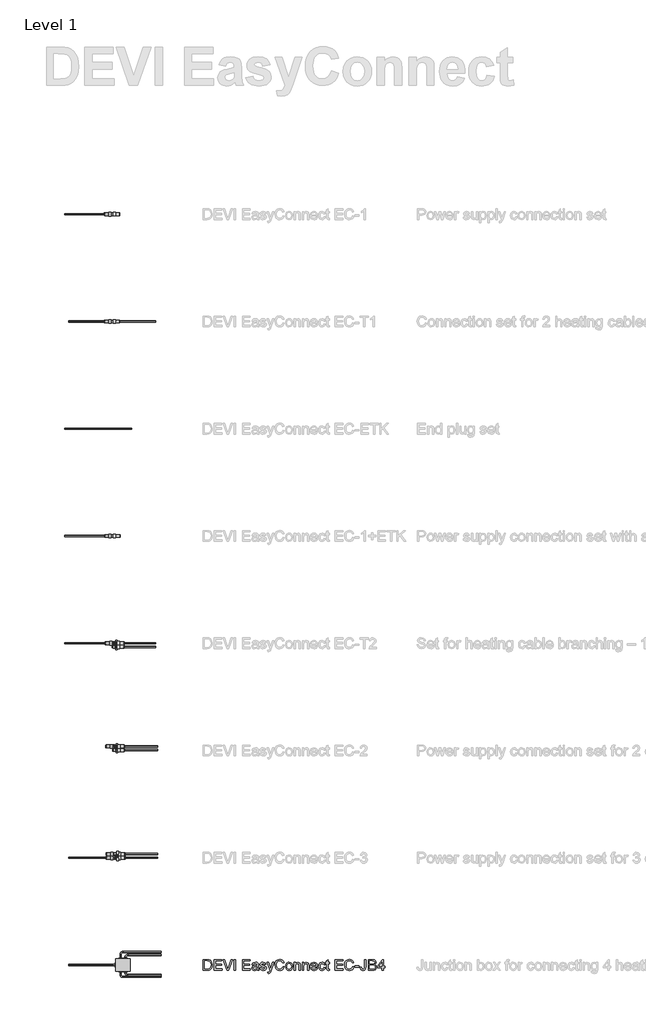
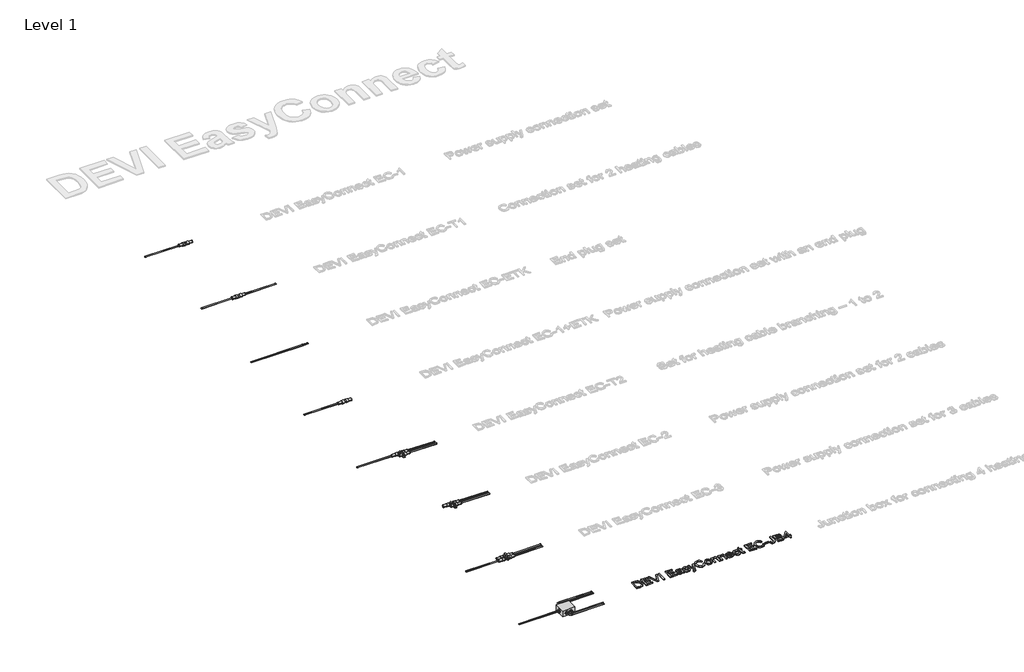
# One storey, part 1 of 11: 20 cable carrier segments, 12 cable carrier fittings, 1 proxy.
"""IFC4 building model written with IfcOpenShell, lengths in millimetres."""

from ifc_helpers import new_model, si_unit, point, frame, frame_2d, origin, origin_with_axes, place, context, project, spatial, polyline, circle_curve, trimmed, segment, composite_curve, outline, extrude, transform, mapped, element, save
from components import cable_carrier_fitting_3c55ed5f, cable_carrier_fitting_7790ee7d, cable_carrier_fitting_9c28b088, cable_carrier_fitting_f990690f, cable_carrier_fitting_56bb56f9, standard_92e4cb31

model = new_model("IFC4")

# Units and contexts
model_context = context("Model", 3, world=origin())
ifc_project = project(units=[si_unit("LENGTHUNIT", "METRE", prefix="MILLI")], contexts=[model_context])

# Site, building, storey
site = spatial("IfcSite", under=ifc_project)
building = spatial("IfcBuilding", under=site)
storey = spatial("IfcBuildingStorey", under=building, Name="Level 1", Elevation=0.0)

# Proxy
placement = place(None, origin())
element("IfcBuildingElementProxy", 1, Name="100mm Arial", ObjectType="100mm Arial", at=placement, inside=storey, context=model_context, shape_type="SweptSolid", body=[
    extrude(outline(polyline([(2544.9544754, -483.2658504), (2544.9544754, -382.8095402), (2579.6089593, -382.8095402), (2597.5370752, -384.2565428), (2612.3014059, -391.4425044), (2624.1962571, -408.6103308), (2628.1448572, -432.4981351), (2625.4715814, -452.768433), (2618.6044508, -467.3978737), (2609.4319264, -476.5090844), (2597.4267106, -481.5490677), (2581.276691, -483.2658504), (2544.9544754, -483.2658504)]), holes=[polyline([(2557.5115141, -470.7088116), (2579.7315866, -470.7088116), (2595.893869, -468.8939271), (2605.2135462, -463.7681046), (2612.8532289, -451.296905), (2615.5878184, -432.3019313), (2614.2481148, -418.6167211), (2610.229004, -408.512229), (2597.1937187, -397.3776672), (2579.3882301, -395.366579), (2557.5115141, -395.366579), (2557.5115141, -470.7088116)])]), origin_with_axes(), (0.0, 0.0, 1.0), 10.0),
    extrude(outline(polyline([(2645.4107855, -483.2658504), (2645.4107855, -382.8095402), (2717.6137584, -382.8095402), (2717.6137584, -395.366579), (2657.9678243, -395.366579), (2657.9678243, -425.1895461), (2714.4744987, -425.1895461), (2714.4744987, -437.7465849), (2657.9678243, -437.7465849), (2657.9678243, -470.7088116), (2719.1833883, -470.7088116), (2719.1833883, -483.2658504), (2645.4107855, -483.2658504)])), origin_with_axes(), (0.0, 0.0, 1.0), 10.0),
    extrude(outline(polyline([(2767.6947607, -483.2658504), (2727.7182506, -382.8095402), (2741.1582061, -382.8095402), (2767.9154899, -455.1841914), (2773.335618, -471.4936265), (2778.6821696, -455.1841914), (2805.5130298, -382.8095402), (2818.9529854, -382.8095402), (2780.6687324, -483.2658504), (2767.6947607, -483.2658504)])), origin_with_axes(), (0.0, 0.0, 1.0), 10.0),
    extrude(outline(polyline([(2832.1967372, -483.2658504), (2832.1967372, -382.8095402), (2844.753776, -382.8095402), (2844.753776, -483.2658504), (2832.1967372, -483.2658504)])), origin_with_axes(), (0.0, 0.0, 1.0), 10.0),
    extrude(outline(polyline([(2909.1085996, -483.2658504), (2909.1085996, -382.8095402), (2981.3115726, -382.8095402), (2981.3115726, -395.366579), (2921.6656384, -395.366579), (2921.6656384, -425.1895461), (2978.1723129, -425.1895461), (2978.1723129, -437.7465849), (2921.6656384, -437.7465849), (2921.6656384, -470.7088116), (2982.8812024, -470.7088116), (2982.8812024, -483.2658504), (2909.1085996, -483.2658504)])), origin_with_axes(), (0.0, 0.0, 1.0), 10.0),
    extrude(outline(polyline([(3047.2360261, -473.8480713), (3035.0591321, -482.3584081), (3021.6069138, -484.8354802), (3011.1130799, -483.3455582), (3003.3722295, -478.8757919), (2998.5989607, -472.0883691), (2997.007871, -463.6454773), (2999.4113667, -453.7126634), (3005.7266743, -446.5021763), (3014.519054, -442.381898), (3025.3838356, -440.4934371), (3047.1624497, -436.176955), (3047.2360261, -433.3810518), (3043.7779353, -424.1104256), (3029.8965214, -420.4806565), (3017.1923298, -422.896415), (3011.1345396, -431.4680655), (2998.5775009, -429.8984356), (3004.0098917, -417.6357025), (3014.9482497, -410.4497408), (3031.5152022, -407.9236178), (3046.733254, -410.1554352), (3055.32943, -415.7595043), (3059.1799282, -424.2821038), (3059.7930649, -435.2695128), (3059.7930649, -450.8922348), (3060.430727, -472.7076371), (3062.9323246, -483.2658504), (3050.3752858, -483.2658504), (3047.2360261, -473.8480713)]), holes=[polyline([(3047.2360261, -448.7339938), (3026.9779909, -452.584492), (3016.174523, -454.6201057), (3011.2816924, -457.9310437), (3009.5649098, -462.7625605), (3013.3050434, -469.5561147), (3024.2801896, -472.2784415), (3036.9843812, -469.2740718), (3045.1758869, -462.0022711), (3047.1624497, -452.2901864), (3047.2360261, -448.7339938)])]), origin_with_axes(), (0.0, 0.0, 1.0), 10.0),
    extrude(outline(polyline([(3072.3501036, -461.2910325), (3084.9071424, -459.7214027), (3090.7196779, -469.0410799), (3104.0370062, -472.2784415), (3116.8392996, -469.31086), (3121.0086289, -462.3456276), (3116.8147741, -456.7047703), (3103.8898534, -453.1240523), (3084.9807188, -446.9804229), (3076.7278994, -439.806724), (3073.9197335, -429.6777064), (3076.1760764, -420.321241), (3082.3319684, -413.1720676), (3090.3150077, -409.4564594), (3101.1184757, -407.9236178), (3116.3978412, -410.3884271), (3126.1099259, -417.059354), (3130.4264079, -428.3288058), (3117.8693692, -429.8984356), (3113.1482169, -422.9699914), (3102.0994943, -420.4806565), (3090.0820158, -422.8596268), (3086.4767723, -428.4023822), (3087.9728257, -432.0566767), (3092.6571898, -434.8280544), (3103.4729204, -437.5013302), (3121.9038084, -443.4119676), (3130.4631961, -450.1074199), (3133.5656676, -461.0212524), (3129.9236359, -473.0387309), (3119.4144736, -481.7575342), (3103.8653279, -484.8354802), (3091.2040559, -483.3516895), (3081.9640864, -478.9003174), (3075.7959317, -471.5304147), (3072.3501036, -461.2910325)])), origin_with_axes(), (0.0, 0.0, 1.0), 10.0),
    extrude(outline(polyline([(3147.6923363, -511.5191876), (3146.1227064, -499.4281327), (3152.4993277, -500.5317787), (3158.459016, -499.1460898), (3162.1133105, -495.2833289), (3165.5468758, -486.0372281), (3166.5278944, -482.9960703), (3139.844187, -409.4932476), (3153.0879388, -409.4932476), (3167.2391329, -450.4507764), (3172.1687517, -466.8337879), (3177.0983704, -452.3637628), (3191.6419719, -409.4932476), (3204.7876219, -409.4932476), (3179.1094586, -485.031684), (3172.4385318, -501.4146955), (3165.1544683, -510.2683888), (3155.3688072, -513.0888175), (3147.6923363, -511.5191876)])), origin_with_axes(), (0.0, 0.0, 1.0), 10.0),
    extrude(outline(polyline([(3287.3893926, -447.5567714), (3299.9464313, -450.7941329), (3294.1522899, -465.4266393), (3285.0594733, -476.116677), (3273.1155711, -482.6557794), (3258.7681733, -484.8354802), (3244.203112, -483.1861426), (3232.6362889, -478.2381298), (3223.7703329, -470.16312), (3217.3078725, -459.1327915), (3212.0471599, -432.2774059), (3213.5340163, -417.6295711), (3217.9945855, -404.9805618), (3225.1958756, -394.7319826), (3234.9048946, -387.2854378), (3246.419601, -382.7512923), (3259.0379535, -381.2399104), (3272.8059371, -383.1958163), (3284.1888192, -389.0635342), (3292.8309804, -398.4813132), (3298.3768015, -411.0874029), (3285.8197627, -414.0795098), (3275.5190668, -398.6407288), (3258.5474441, -393.7969492), (3238.9025456, -399.1680263), (3227.8047721, -413.5890005), (3224.6041987, -432.2528804), (3228.3933833, -453.8843417), (3240.1901326, -467.704442), (3257.5173745, -472.2784415), (3267.9989457, -470.7210744), (3276.7330774, -466.048973), (3283.3273622, -458.3111884), (3287.3893926, -447.5567714)])), origin_with_axes(), (0.0, 0.0, 1.0), 10.0),
    extrude(outline(polyline([(3312.5034701, -446.379549), (3315.2196655, -428.5924545), (3323.3682517, -416.0905981), (3333.4359556, -409.9653629), (3345.4902223, -407.9236178), (3358.6818575, -410.4098869), (3369.218611, -417.8686944), (3376.1255955, -429.7114289), (3378.4279236, -445.3494794), (3374.3566962, -467.6921793), (3362.4986332, -480.3350572), (3345.4902223, -484.8354802), (3332.1391716, -482.3584081), (3321.6146808, -474.9271918), (3314.7812728, -462.8361369), (3312.5034701, -446.379549)]), holes=[polyline([(3325.0605089, -446.3550235), (3326.5136427, -457.7195115), (3330.8730444, -465.8159811), (3337.4336066, -470.6628264), (3345.4902223, -472.2784415), (3353.5100498, -470.6536293), (3360.0583493, -465.7791929), (3364.417751, -457.5754244), (3365.8708849, -445.9626161), (3364.4085539, -434.9292219), (3360.0215611, -426.9431169), (3353.4640646, -422.0962716), (3345.4902223, -420.4806565), (3337.4336066, -422.0901403), (3330.8730444, -426.9185915), (3326.5136427, -434.9966669), (3325.0605089, -446.3550235)])]), origin_with_axes(), (0.0, 0.0, 1.0), 10.0),
    extrude(outline(polyline([(3392.5545922, -483.2658504), (3392.5545922, -409.4932476), (3405.111631, -409.4932476), (3405.111631, -419.7939435), (3414.7133511, -410.8911992), (3427.8222128, -407.9236178), (3439.6802758, -410.3148507), (3447.7736797, -416.5933701), (3451.5383388, -425.8272082), (3452.2005264, -437.9673141), (3452.2005264, -483.2658504), (3439.6434876, -483.2658504), (3439.6434876, -439.6595712), (3438.1964851, -428.549535), (3433.0829254, -422.6756858), (3424.462224, -420.4806565), (3410.8383274, -425.4102753), (3406.5433051, -432.5533174), (3405.111631, -444.1232061), (3405.111631, -483.2658504), (3392.5545922, -483.2658504)])), origin_with_axes(), (0.0, 0.0, 1.0), 10.0),
    extrude(outline(polyline([(3469.4664547, -483.2658504), (3469.4664547, -409.4932476), (3482.0234935, -409.4932476), (3482.0234935, -419.7939435), (3491.6252135, -410.8911992), (3504.7340753, -407.9236178), (3516.5921383, -410.3148507), (3524.6855422, -416.5933701), (3528.4502013, -425.8272082), (3529.1123889, -437.9673141), (3529.1123889, -483.2658504), (3516.5553501, -483.2658504), (3516.5553501, -439.6595712), (3515.1083476, -428.549535), (3509.9947878, -422.6756858), (3501.3740864, -420.4806565), (3487.7501899, -425.4102753), (3483.4551676, -432.5533174), (3482.0234935, -444.1232061), (3482.0234935, -483.2658504), (3469.4664547, -483.2658504)])), origin_with_axes(), (0.0, 0.0, 1.0), 10.0),
    extrude(outline(polyline([(3598.0289493, -461.2910325), (3610.3407334, -462.8606624), (3605.9046897, -472.13742), (3598.8260269, -479.0719956), (3589.2641607, -483.3946091), (3577.3785066, -484.8354802), (3562.6448327, -482.3492111), (3551.3079359, -474.8904036), (3544.0790547, -462.9434358), (3541.6694276, -446.9926857), (3544.1035802, -430.5054409), (3551.4060378, -418.1752627), (3562.5896504, -410.486529), (3576.6672681, -407.9236178), (3590.3064931, -410.4803976), (3601.2049972, -418.1507372), (3608.3511049, -430.45639), (3610.7331408, -446.9191093), (3610.6595645, -450.3036236), (3554.2264664, -450.3036236), (3556.4000358, -459.7030086), (3561.4492162, -466.6130587), (3568.7363454, -470.8620958), (3577.6237613, -472.2784415), (3589.9355454, -469.6542166), (3598.0289493, -461.2910325)]), holes=[polyline([(3554.2264664, -437.7465849), (3598.1761021, -437.7465849), (3593.1483815, -426.3667685), (3585.8275298, -421.9521845), (3576.6182172, -420.4806565), (3561.1549106, -425.1772834), (3556.2896712, -430.6679221), (3554.2264664, -437.7465849)])]), origin_with_axes(), (0.0, 0.0, 1.0), 10.0),
    extrude(outline(polyline([(3670.379075, -456.582143), (3682.9361138, -458.1517729), (3679.4351034, -469.3200571), (3672.8561471, -477.7598832), (3663.8185128, -483.066581), (3652.9414684, -484.8354802), (3639.5842863, -482.3676052), (3629.1395033, -474.96398), (3622.3980658, -462.9495672), (3620.1509199, -446.6493291), (3623.9891554, -425.79042), (3635.6878029, -412.3872527), (3652.7697902, -407.9236178), (3663.38012, -409.4564594), (3671.8628657, -414.0549844), (3677.9482471, -421.4739379), (3681.3664839, -431.4680655), (3668.8094452, -433.0376953), (3662.9846469, -423.632179), (3652.867892, -420.4806565), (3644.7530284, -422.0318923), (3638.3120278, -426.6855995), (3634.108976, -434.6931643), (3632.7079587, -446.3059726), (3634.0783191, -458.0751308), (3638.1894004, -466.1102867), (3644.5139051, -470.7364028), (3652.5245355, -472.2784415), (3664.358073, -468.4279433), (3670.379075, -456.582143)])), origin_with_axes(), (0.0, 0.0, 1.0), 10.0),
    extrude(outline(polyline([(3720.6072301, -472.7934763), (3722.1768599, -483.6337324), (3712.7836063, -484.8354802), (3702.2621812, -482.7508156), (3697.0137315, -477.2816366), (3695.4931525, -463.0323407), (3695.4931525, -422.0502864), (3686.0753735, -422.0502864), (3686.0753735, -409.4932476), (3695.4931525, -409.4932476), (3695.4931525, -391.5651317), (3708.0501913, -384.1829664), (3708.0501913, -409.4932476), (3720.6072301, -409.4932476), (3720.6072301, -422.0502864), (3708.0501913, -422.0502864), (3708.0501913, -462.6644587), (3708.7123789, -469.1391818), (3710.8583572, -471.4323129), (3715.1380511, -472.2784415), (3720.6072301, -472.7934763)])), origin_with_axes(), (0.0, 0.0, 1.0), 10.0),
    extrude(outline(polyline([(3773.9746448, -483.2658504), (3773.9746448, -382.8095402), (3846.1776178, -382.8095402), (3846.1776178, -395.366579), (3786.5316836, -395.366579), (3786.5316836, -425.1895461), (3843.0383581, -425.1895461), (3843.0383581, -437.7465849), (3786.5316836, -437.7465849), (3786.5316836, -470.7088116), (3847.7472476, -470.7088116), (3847.7472476, -483.2658504), (3773.9746448, -483.2658504)])), origin_with_axes(), (0.0, 0.0, 1.0), 10.0),
    extrude(outline(polyline([(3937.2161488, -447.5567714), (3949.7731876, -450.7941329), (3943.9790462, -465.4266393), (3934.8862295, -476.116677), (3922.9423274, -482.6557794), (3908.5949296, -484.8354802), (3894.0298683, -483.1861426), (3882.4630452, -478.2381298), (3873.5970891, -470.16312), (3867.1346288, -459.1327915), (3861.8739162, -432.2774059), (3863.3607726, -417.6295711), (3867.8213418, -404.9805618), (3875.0226319, -394.7319826), (3884.7316509, -387.2854378), (3896.2463573, -382.7512923), (3908.8647097, -381.2399104), (3922.6326934, -383.1958163), (3934.0155755, -389.0635342), (3942.6577367, -398.4813132), (3948.2035578, -411.0874029), (3935.646519, -414.0795098), (3925.3458231, -398.6407288), (3908.3742004, -393.7969492), (3888.7293019, -399.1680263), (3877.6315284, -413.5890005), (3874.430955, -432.2528804), (3878.2201395, -453.8843417), (3890.0168889, -467.704442), (3907.3441308, -472.2784415), (3917.825702, -470.7210744), (3926.5598337, -466.048973), (3933.1541185, -458.3111884), (3937.2161488, -447.5567714)])), origin_with_axes(), (0.0, 0.0, 1.0), 10.0),
    extrude(outline(polyline([(3959.1909667, -453.4428833), (3959.1909667, -440.8858445), (3998.4317128, -440.8858445), (3998.4317128, -453.4428833), (3959.1909667, -453.4428833)])), origin_with_axes(), (0.0, 0.0, 1.0), 10.0),
    extrude(outline(polyline([(4007.8494919, -455.0615641), (4020.4065307, -453.4428833), (4024.6984873, -468.2807905), (4035.2934888, -472.2784415), (4043.8896647, -470.0098358), (4048.8683344, -463.8294183), (4050.2294978, -451.3827441), (4050.2294978, -382.8095402), (4062.7865365, -382.8095402), (4062.7865365, -451.1620149), (4059.7576414, -470.6720234), (4050.1436586, -481.2057112), (4034.7048776, -484.8354802), (4023.0982006, -482.9623477), (4014.5694697, -477.3429503), (4009.3945963, -468.0263387), (4007.8494919, -455.0615641)])), origin_with_axes(), (0.0, 0.0, 1.0), 10.0),
    extrude(outline(polyline([(4084.7613544, -483.2658504), (4084.7613544, -382.8095402), (4123.0946583, -382.8095402), (4141.8689028, -385.7648589), (4152.9544135, -394.8515442), (4156.9643273, -407.7028886), (4153.5920757, -419.4383242), (4143.4017444, -428.3288058), (4155.7748422, -437.6975339), (4160.103587, -453.320256), (4157.1482683, -466.8215252), (4149.8274166, -476.435508), (4138.9013213, -481.536805), (4122.8003527, -483.2658504), (4084.7613544, -483.2658504)]), holes=[polyline([(4097.3183931, -423.6199162), (4120.2497042, -423.6199162), (4133.6406088, -422.5407957), (4141.6972245, -417.8932198), (4144.4072885, -409.7139768), (4141.8811655, -401.5224711), (4134.6461529, -396.6786915), (4118.5083961, -395.366579), (4097.3183931, -395.366579), (4097.3183931, -423.6199162)]), polyline([(4097.3183931, -470.7088116), (4123.0701328, -470.7088116), (4132.38981, -470.2183023), (4140.2747474, -467.4837128), (4145.4986718, -461.9041692), (4147.5465482, -453.4428833), (4145.1430525, -443.6817477), (4137.3562169, -437.8569495), (4121.8438595, -436.176955), (4097.3183931, -436.176955), (4097.3183931, -470.7088116)])]), origin_with_axes(), (0.0, 0.0, 1.0), 10.0),
    extrude(outline(polyline([(4213.4710017, -483.2658504), (4213.4710017, -459.7214027), (4167.9517362, -459.7214027), (4167.9517362, -447.1643639), (4216.6102614, -384.3791701), (4226.0280405, -384.3791701), (4226.0280405, -447.1643639), (4238.5850793, -447.1643639), (4238.5850793, -459.7214027), (4226.0280405, -459.7214027), (4226.0280405, -483.2658504), (4213.4710017, -483.2658504)]), holes=[polyline([(4213.4710017, -447.1643639), (4213.4710017, -408.3650762), (4183.40278, -447.1643639), (4213.4710017, -447.1643639)])]), origin_with_axes(), (0.0, 0.0, 1.0), 10.0),
])

# Cable carrier fittings
cable_carrier_fitting_shape = cable_carrier_fitting_3c55ed5f(model_context)
element("IfcCableCarrierFitting", 2, ObjectType="DEVI EasyConnect EC-1 : DEVI EasyConnect EC-1_98300870", at=placement, inside=storey, context=model_context, shape_type="MappedRepresentation", body=[
    mapped(cable_carrier_fitting_shape, transform((1620.9670664, 6566.7341496, 0.0), x_axis=(1.0, 0.0, 0.0), y_axis=(0.0, 1.0, 0.0), z_axis=(0.0, 0.0, 1.0))),
])
element("IfcCableCarrierFitting", 3, ObjectType="DEVI EasyConnect EC-T1 : DEVI EasyConnect EC-T1_98300871", at=placement, inside=storey, context=model_context, shape_type="MappedRepresentation", body=[
    mapped(cable_carrier_fitting_shape, transform((1620.9670664, 5566.4180144, 0.0), x_axis=(1.0, 0.0, 0.0), y_axis=(0.0, 1.0, 0.0), z_axis=(0.0, 0.0, 1.0))),
])
cable_carrier_fitting_2_shape = cable_carrier_fitting_7790ee7d(model_context)
element("IfcCableCarrierFitting", 4, ObjectType="DEVI EasyConnect EC-ETK : DEVI EasyConnect EC-ETK_98300872", at=placement, inside=storey, context=model_context, shape_type="MappedRepresentation", body=[
    mapped(cable_carrier_fitting_2_shape, transform((1818.9670664, 4566.4180144, 0.0), x_axis=(1.0, 0.0, 0.0), y_axis=(0.0, 1.0, 0.0), z_axis=(0.0, 0.0, 1.0))),
])
element("IfcCableCarrierFitting", 5, ObjectType="DEVI EasyConnect EC-1+ETK : DEVI EasyConnect EC-1+ETK_98300873", at=placement, inside=storey, context=model_context, shape_type="MappedRepresentation", body=[
    mapped(cable_carrier_fitting_shape, transform((1623.9670664, 3566.4180144, 0.0), x_axis=(1.0, 0.0, 0.0), y_axis=(0.0, 1.0, 0.0), z_axis=(0.0, 0.0, 1.0))),
])
cable_carrier_fitting_3_shape = cable_carrier_fitting_9c28b088(model_context)
element("IfcCableCarrierFitting", 6, ObjectType="DEVI EasyConnect EC-T2 : DEVI EasyConnect EC-T2_98300874", at=placement, inside=storey, context=model_context, shape_type="MappedRepresentation", body=[
    mapped(cable_carrier_fitting_3_shape, transform((1805.9670664, 2532.4180144, 0.0), x_axis=(-1.0, 0.0, 0.0), y_axis=(0.0, -1.0, 0.0), z_axis=(0.0, 0.0, 1.0))),
])
element("IfcCableCarrierFitting", 7, ObjectType="DEVI EasyConnect EC-2 : DEVI EasyConnect EC-2_98300875", at=placement, inside=storey, context=model_context, shape_type="MappedRepresentation", body=[
    mapped(cable_carrier_fitting_3_shape, transform((1810.9670664, 1570.4180144, 0.0), x_axis=(-1.0, 0.0, 0.0), y_axis=(0.0, -1.0, 0.0), z_axis=(0.0, 0.0, 1.0))),
])
cable_carrier_fitting_4_shape = cable_carrier_fitting_f990690f(model_context)
element("IfcCableCarrierFitting", 8, ObjectType="DEVI EasyConnect EC-3 : DEVI EasyConnect EC-3_98300876", at=placement, inside=storey, context=model_context, shape_type="MappedRepresentation", body=[
    mapped(cable_carrier_fitting_4_shape, transform((1815.9670664, 600.4180144, 0.0), x_axis=(-1.0, 0.0, 0.0), y_axis=(0.0, 1.0, 0.0), z_axis=(0.0, 0.0, -1.0))),
])
cable_carrier_fitting_5_shape = cable_carrier_fitting_56bb56f9(model_context)
element("IfcCableCarrierFitting", 9, ObjectType="DEVI EasyConnect EC-JB4 : DEVI EasyConnect EC-JB4_98300877", at=placement, inside=storey, context=model_context, shape_type="MappedRepresentation", body=[
    mapped(cable_carrier_fitting_5_shape, transform((1703.9670664, -433.5819856, 0.0), x_axis=(1.0, 0.0, 0.0), y_axis=(0.0, 1.0, 0.0), z_axis=(0.0, 0.0, 1.0))),
])
standard_shape = standard_92e4cb31(model_context)
element("IfcCableCarrierFitting", 10, ObjectType="Danfoss_Elbow : Standard", at=placement, inside=storey, context=model_context, shape_type="MappedRepresentation", body=[
    mapped(standard_shape, transform((1818.9670664, -526.0819856, 0.0), x_axis=(0.0, -1.0, 0.0), y_axis=(1.0, 0.0, 0.0), z_axis=(0.0, 0.0, 1.0))),
])
element("IfcCableCarrierFitting", 11, ObjectType="Danfoss_Elbow : Standard", at=placement, inside=storey, context=model_context, shape_type="MappedRepresentation", body=[
    mapped(standard_shape, transform((1773.9670664, -543.5819856, 0.0), x_axis=(0.0, -1.0, 0.0), y_axis=(1.0, 0.0, 0.0), z_axis=(0.0, 0.0, 1.0))),
])
element("IfcCableCarrierFitting", 12, ObjectType="Danfoss_Elbow : Standard", at=placement, inside=storey, context=model_context, shape_type="MappedRepresentation", body=[
    mapped(standard_shape, transform((1818.9670664, -341.0819856, 0.0), x_axis=(-1.0, 0.0, 0.0), y_axis=(0.0, -1.0, 0.0), z_axis=(0.0, 0.0, 1.0))),
])
element("IfcCableCarrierFitting", 13, ObjectType="Danfoss_Elbow : Standard", at=placement, inside=storey, context=model_context, shape_type="MappedRepresentation", body=[
    mapped(standard_shape, transform((1773.9670664, -313.5819856, 0.0), x_axis=(-1.0, 0.0, 0.0), y_axis=(0.0, -1.0, 0.0), z_axis=(0.0, 0.0, 1.0))),
])

# Cable carrier segments
element("IfcCableCarrierSegment", 14, ObjectType="Danfoss", at=placement, inside=storey, context=model_context, shape_type="SweptSolid", body=[
    extrude(outline(composite_curve([segment(trimmed(circle_curve(frame_2d((6566.7341496, 0.0)), 6.0), [point((6572.7341496, 0.0))], [point((6566.7341496, -6.0))], False, "CARTESIAN"), True, "CONTINUOUS"), segment(trimmed(circle_curve(frame_2d((6566.7341496, 0.0)), 6.0), [point((6566.7341496, -6.0))], [point((6560.7341496, 0.0))], False, "CARTESIAN"), True, "CONTINUOUS"), segment(trimmed(circle_curve(frame_2d((6566.7341496, 0.0)), 6.0), [point((6560.7341496, 0.0))], [point((6566.7341496, 6.0))], False, "CARTESIAN"), True, "CONTINUOUS"), segment(trimmed(circle_curve(frame_2d((6566.7341496, 0.0)), 6.0), [point((6566.7341496, 6.0))], [point((6572.7341496, 0.0))], False, "CARTESIAN"), True, "CONTINUOUS")], self_intersect=False)), frame((1253.9670664, 0.0, 0.0), z_axis=(1.0, 0.0, 0.0), x_axis=(0.0, 1.0, 0.0)), (0.0, 0.0, 1.0), 367.0),
])
element("IfcCableCarrierSegment", 15, ObjectType="Danfoss", at=placement, inside=storey, context=model_context, shape_type="SweptSolid", body=[
    extrude(outline(composite_curve([segment(trimmed(circle_curve(frame_2d((5566.4180144, 0.0)), 6.0), [point((5572.4180144, 0.0))], [point((5566.4180144, -6.0))], False, "CARTESIAN"), True, "CONTINUOUS"), segment(trimmed(circle_curve(frame_2d((5566.4180144, 0.0)), 6.0), [point((5566.4180144, -6.0))], [point((5560.4180144, 0.0))], False, "CARTESIAN"), True, "CONTINUOUS"), segment(trimmed(circle_curve(frame_2d((5566.4180144, 0.0)), 6.0), [point((5560.4180144, 0.0))], [point((5566.4180144, 6.0))], False, "CARTESIAN"), True, "CONTINUOUS"), segment(trimmed(circle_curve(frame_2d((5566.4180144, 0.0)), 6.0), [point((5566.4180144, 6.0))], [point((5572.4180144, 0.0))], False, "CARTESIAN"), True, "CONTINUOUS")], self_intersect=False)), frame((1288.9670664, 0.0, 0.0), z_axis=(1.0, 0.0, 0.0), x_axis=(0.0, 1.0, 0.0)), (0.0, 0.0, 1.0), 332.0),
])
element("IfcCableCarrierSegment", 16, ObjectType="Danfoss", at=placement, inside=storey, context=model_context, shape_type="SweptSolid", body=[
    extrude(outline(composite_curve([segment(trimmed(circle_curve(frame_2d((3566.4180144, 0.0)), 6.0), [point((3560.4180144, 0.0))], [point((3566.4180144, 6.0))], False, "CARTESIAN"), True, "CONTINUOUS"), segment(trimmed(circle_curve(frame_2d((3566.4180144, 0.0)), 6.0), [point((3566.4180144, 6.0))], [point((3572.4180144, 0.0))], False, "CARTESIAN"), True, "CONTINUOUS"), segment(trimmed(circle_curve(frame_2d((3566.4180144, 0.0)), 6.0), [point((3572.4180144, 0.0))], [point((3566.4180144, -6.0))], False, "CARTESIAN"), True, "CONTINUOUS"), segment(trimmed(circle_curve(frame_2d((3566.4180144, 0.0)), 6.0), [point((3566.4180144, -6.0))], [point((3560.4180144, 0.0))], False, "CARTESIAN"), True, "CONTINUOUS")], self_intersect=False)), frame((1253.9670664, 0.0, 0.0), z_axis=(1.0, 0.0, 0.0), x_axis=(0.0, 1.0, 0.0)), (0.0, 0.0, 1.0), 370.0),
])
element("IfcCableCarrierSegment", 17, ObjectType="Danfoss", at=placement, inside=storey, context=model_context, shape_type="SweptSolid", body=[
    extrude(outline(composite_curve([segment(trimmed(circle_curve(frame_2d((4566.4180144, 0.0)), 6.0), [point((4572.4180144, 0.0))], [point((4566.4180144, -6.0))], False, "CARTESIAN"), True, "CONTINUOUS"), segment(trimmed(circle_curve(frame_2d((4566.4180144, 0.0)), 6.0), [point((4566.4180144, -6.0))], [point((4560.4180144, 0.0))], False, "CARTESIAN"), True, "CONTINUOUS"), segment(trimmed(circle_curve(frame_2d((4566.4180144, 0.0)), 6.0), [point((4560.4180144, 0.0))], [point((4566.4180144, 6.0))], False, "CARTESIAN"), True, "CONTINUOUS"), segment(trimmed(circle_curve(frame_2d((4566.4180144, 0.0)), 6.0), [point((4566.4180144, 6.0))], [point((4572.4180144, 0.0))], False, "CARTESIAN"), True, "CONTINUOUS")], self_intersect=False)), frame((1253.9670664, 0.0, 0.0), z_axis=(1.0, 0.0, 0.0), x_axis=(0.0, 1.0, 0.0)), (0.0, 0.0, 1.0), 565.0),
])
element("IfcCableCarrierSegment", 18, ObjectType="Danfoss", at=placement, inside=storey, context=model_context, shape_type="SweptSolid", body=[
    extrude(outline(composite_curve([segment(trimmed(circle_curve(frame_2d((5566.4180144, 0.0)), 6.0), [point((5560.4180144, 0.0))], [point((5566.4180144, 6.0))], False, "CARTESIAN"), True, "CONTINUOUS"), segment(trimmed(circle_curve(frame_2d((5566.4180144, 0.0)), 6.0), [point((5566.4180144, 6.0))], [point((5572.4180144, 0.0))], False, "CARTESIAN"), True, "CONTINUOUS"), segment(trimmed(circle_curve(frame_2d((5566.4180144, 0.0)), 6.0), [point((5572.4180144, 0.0))], [point((5566.4180144, -6.0))], False, "CARTESIAN"), True, "CONTINUOUS"), segment(trimmed(circle_curve(frame_2d((5566.4180144, 0.0)), 6.0), [point((5566.4180144, -6.0))], [point((5560.4180144, 0.0))], False, "CARTESIAN"), True, "CONTINUOUS")], self_intersect=False)), frame((1765.9670664, 0.0, 0.0), z_axis=(1.0, 0.0, 0.0), x_axis=(0.0, 1.0, 0.0)), (0.0, 0.0, 1.0), 335.0),
])
element("IfcCableCarrierSegment", 19, ObjectType="Danfoss", at=placement, inside=storey, context=model_context, shape_type="SweptSolid", body=[
    extrude(outline(composite_curve([segment(trimmed(circle_curve(frame_2d((-433.5819856, 0.0)), 6.0), [point((-427.5819856, 0.0))], [point((-433.5819856, -6.0))], False, "CARTESIAN"), True, "CONTINUOUS"), segment(trimmed(circle_curve(frame_2d((-433.5819856, 0.0)), 6.0), [point((-433.5819856, -6.0))], [point((-439.5819856, 0.0))], False, "CARTESIAN"), True, "CONTINUOUS"), segment(trimmed(circle_curve(frame_2d((-433.5819856, 0.0)), 6.0), [point((-439.5819856, 0.0))], [point((-433.5819856, 6.0))], False, "CARTESIAN"), True, "CONTINUOUS"), segment(trimmed(circle_curve(frame_2d((-433.5819856, 0.0)), 6.0), [point((-433.5819856, 6.0))], [point((-427.5819856, 0.0))], False, "CARTESIAN"), True, "CONTINUOUS")], self_intersect=False)), frame((1288.9670664, 0.0, 0.0), z_axis=(1.0, 0.0, 0.0), x_axis=(0.0, 1.0, 0.0)), (0.0, 0.0, 1.0), 415.0),
])
element("IfcCableCarrierSegment", 20, ObjectType="Danfoss", at=placement, inside=storey, context=model_context, shape_type="SweptSolid", body=[
    extrude(outline(composite_curve([segment(trimmed(circle_curve(frame_2d((2566.4180144, 0.0)), 6.0), [point((2572.4180144, 0.0))], [point((2566.4180144, -6.0))], False, "CARTESIAN"), True, "CONTINUOUS"), segment(trimmed(circle_curve(frame_2d((2566.4180144, 0.0)), 6.0), [point((2566.4180144, -6.0))], [point((2560.4180144, 0.0))], False, "CARTESIAN"), True, "CONTINUOUS"), segment(trimmed(circle_curve(frame_2d((2566.4180144, 0.0)), 6.0), [point((2560.4180144, 0.0))], [point((2566.4180144, 6.0))], False, "CARTESIAN"), True, "CONTINUOUS"), segment(trimmed(circle_curve(frame_2d((2566.4180144, 0.0)), 6.0), [point((2566.4180144, 6.0))], [point((2572.4180144, 0.0))], False, "CARTESIAN"), True, "CONTINUOUS")], self_intersect=False)), frame((1253.9670664, 0.0, 0.0), z_axis=(1.0, 0.0, 0.0), x_axis=(0.0, 1.0, 0.0)), (0.0, 0.0, 1.0), 376.0),
])
element("IfcCableCarrierSegment", 21, ObjectType="Danfoss", at=placement, inside=storey, context=model_context, shape_type="SweptSolid", body=[
    extrude(outline(composite_curve([segment(trimmed(circle_curve(frame_2d((1604.4180144, 0.0)), 6.0), [point((1598.4180144, 0.0))], [point((1604.4180144, 6.0))], False, "CARTESIAN"), True, "CONTINUOUS"), segment(trimmed(circle_curve(frame_2d((1604.4180144, 0.0)), 6.0), [point((1604.4180144, 6.0))], [point((1610.4180144, 0.0))], False, "CARTESIAN"), True, "CONTINUOUS"), segment(trimmed(circle_curve(frame_2d((1604.4180144, 0.0)), 6.0), [point((1610.4180144, 0.0))], [point((1604.4180144, -6.0))], False, "CARTESIAN"), True, "CONTINUOUS"), segment(trimmed(circle_curve(frame_2d((1604.4180144, 0.0)), 6.0), [point((1604.4180144, -6.0))], [point((1598.4180144, 0.0))], False, "CARTESIAN"), True, "CONTINUOUS")], self_intersect=False)), frame((1810.9670664, 0.0, 0.0), z_axis=(1.0, 0.0, 0.0), x_axis=(0.0, 1.0, 0.0)), (0.0, 0.0, 1.0), 310.0),
])
element("IfcCableCarrierSegment", 22, ObjectType="Danfoss", at=placement, inside=storey, context=model_context, shape_type="SweptSolid", body=[
    extrude(outline(composite_curve([segment(trimmed(circle_curve(frame_2d((566.4180144, 0.0)), 6.0), [point((560.4180144, 0.0))], [point((566.4180144, 6.0))], False, "CARTESIAN"), True, "CONTINUOUS"), segment(trimmed(circle_curve(frame_2d((566.4180144, 0.0)), 6.0), [point((566.4180144, 6.0))], [point((572.4180144, 0.0))], False, "CARTESIAN"), True, "CONTINUOUS"), segment(trimmed(circle_curve(frame_2d((566.4180144, 0.0)), 6.0), [point((572.4180144, 0.0))], [point((566.4180144, -6.0))], False, "CARTESIAN"), True, "CONTINUOUS"), segment(trimmed(circle_curve(frame_2d((566.4180144, 0.0)), 6.0), [point((566.4180144, -6.0))], [point((560.4180144, 0.0))], False, "CARTESIAN"), True, "CONTINUOUS")], self_intersect=False)), frame((1815.9670664, 0.0, 0.0), z_axis=(1.0, 0.0, 0.0), x_axis=(0.0, 1.0, 0.0)), (0.0, 0.0, 1.0), 305.0),
])
element("IfcCableCarrierSegment", 23, ObjectType="Danfoss", at=placement, inside=storey, context=model_context, shape_type="SweptSolid", body=[
    extrude(outline(composite_curve([segment(trimmed(circle_curve(frame_2d((566.4180144, 0.0)), 6.0), [point((572.4180144, 0.0))], [point((566.4180144, -6.0))], False, "CARTESIAN"), True, "CONTINUOUS"), segment(trimmed(circle_curve(frame_2d((566.4180144, 0.0)), 6.0), [point((566.4180144, -6.0))], [point((560.4180144, 0.0))], False, "CARTESIAN"), True, "CONTINUOUS"), segment(trimmed(circle_curve(frame_2d((566.4180144, 0.0)), 6.0), [point((560.4180144, 0.0))], [point((566.4180144, 6.0))], False, "CARTESIAN"), True, "CONTINUOUS"), segment(trimmed(circle_curve(frame_2d((566.4180144, 0.0)), 6.0), [point((566.4180144, 6.0))], [point((572.4180144, 0.0))], False, "CARTESIAN"), True, "CONTINUOUS")], self_intersect=False)), frame((1288.9670664, 0.0, 0.0), z_axis=(1.0, 0.0, 0.0), x_axis=(0.0, 1.0, 0.0)), (0.0, 0.0, 1.0), 351.0),
])
element("IfcCableCarrierSegment", 24, ObjectType="Danfoss", at=placement, inside=storey, context=model_context, shape_type="SweptSolid", body=[
    extrude(outline(composite_curve([segment(trimmed(circle_curve(frame_2d((0.0, 1773.9670664)), 6.0), [point((0.0, 1779.9670664))], [point((6.0, 1773.9670664))], False, "CARTESIAN"), True, "CONTINUOUS"), segment(trimmed(circle_curve(frame_2d((0.0, 1773.9670664)), 6.0), [point((6.0, 1773.9670664))], [point((0.0, 1767.9670664))], False, "CARTESIAN"), True, "CONTINUOUS"), segment(trimmed(circle_curve(frame_2d((0.0, 1773.9670664)), 6.0), [point((0.0, 1767.9670664))], [point((-6.0, 1773.9670664))], False, "CARTESIAN"), True, "CONTINUOUS"), segment(trimmed(circle_curve(frame_2d((0.0, 1773.9670664)), 6.0), [point((-6.0, 1773.9670664))], [point((0.0, 1779.9670664))], False, "CARTESIAN"), True, "CONTINUOUS")], self_intersect=False)), frame((0.0, -366.0819856, 0.0), z_axis=(0.0, 1.0, 0.0), x_axis=(0.0, 0.0, 1.0)), (0.0, 0.0, 1.0), 27.5),
])
element("IfcCableCarrierSegment", 25, ObjectType="Danfoss", at=placement, inside=storey, context=model_context, shape_type="SweptSolid", body=[
    extrude(outline(composite_curve([segment(trimmed(circle_curve(frame_2d((0.0, 1773.9670664)), 6.0), [point((0.0, 1767.9670664))], [point((-6.0, 1773.9670664))], False, "CARTESIAN"), True, "CONTINUOUS"), segment(trimmed(circle_curve(frame_2d((0.0, 1773.9670664)), 6.0), [point((-6.0, 1773.9670664))], [point((0.0, 1779.9670664))], False, "CARTESIAN"), True, "CONTINUOUS"), segment(trimmed(circle_curve(frame_2d((0.0, 1773.9670664)), 6.0), [point((0.0, 1779.9670664))], [point((6.0, 1773.9670664))], False, "CARTESIAN"), True, "CONTINUOUS"), segment(trimmed(circle_curve(frame_2d((0.0, 1773.9670664)), 6.0), [point((6.0, 1773.9670664))], [point((0.0, 1767.9670664))], False, "CARTESIAN"), True, "CONTINUOUS")], self_intersect=False)), frame((0.0, -518.5819856, 0.0), z_axis=(0.0, 1.0, 0.0), x_axis=(0.0, 0.0, 1.0)), (0.0, 0.0, 1.0), 17.5),
])
element("IfcCableCarrierSegment", 26, ObjectType="Danfoss", at=placement, inside=storey, context=model_context, shape_type="SweptSolid", body=[
    extrude(outline(composite_curve([segment(trimmed(circle_curve(frame_2d((2566.4180144, 0.0)), 6.0), [point((2560.4180144, 0.0))], [point((2566.4180144, 6.0))], False, "CARTESIAN"), True, "CONTINUOUS"), segment(trimmed(circle_curve(frame_2d((2566.4180144, 0.0)), 6.0), [point((2566.4180144, 6.0))], [point((2572.4180144, 0.0))], False, "CARTESIAN"), True, "CONTINUOUS"), segment(trimmed(circle_curve(frame_2d((2566.4180144, 0.0)), 6.0), [point((2572.4180144, 0.0))], [point((2566.4180144, -6.0))], False, "CARTESIAN"), True, "CONTINUOUS"), segment(trimmed(circle_curve(frame_2d((2566.4180144, 0.0)), 6.0), [point((2566.4180144, -6.0))], [point((2560.4180144, 0.0))], False, "CARTESIAN"), True, "CONTINUOUS")], self_intersect=False)), frame((1805.9670664, 0.0, 0.0), z_axis=(1.0, 0.0, 0.0), x_axis=(0.0, 1.0, 0.0)), (0.0, 0.0, 1.0), 295.0),
])
element("IfcCableCarrierSegment", 27, ObjectType="Danfoss", at=placement, inside=storey, context=model_context, shape_type="SweptSolid", body=[
    extrude(outline(composite_curve([segment(trimmed(circle_curve(frame_2d((600.4180144, 0.0)), 6.0), [point((594.4180144, 0.0))], [point((600.4180144, 6.0))], False, "CARTESIAN"), True, "CONTINUOUS"), segment(trimmed(circle_curve(frame_2d((600.4180144, 0.0)), 6.0), [point((600.4180144, 6.0))], [point((606.4180144, 0.0))], False, "CARTESIAN"), True, "CONTINUOUS"), segment(trimmed(circle_curve(frame_2d((600.4180144, 0.0)), 6.0), [point((606.4180144, 0.0))], [point((600.4180144, -6.0))], False, "CARTESIAN"), True, "CONTINUOUS"), segment(trimmed(circle_curve(frame_2d((600.4180144, 0.0)), 6.0), [point((600.4180144, -6.0))], [point((594.4180144, 0.0))], False, "CARTESIAN"), True, "CONTINUOUS")], self_intersect=False)), frame((1815.9670664, 0.0, 0.0), z_axis=(1.0, 0.0, 0.0), x_axis=(0.0, 1.0, 0.0)), (0.0, 0.0, 1.0), 305.0),
])
element("IfcCableCarrierSegment", 28, ObjectType="Danfoss", at=placement, inside=storey, context=model_context, shape_type="SweptSolid", body=[
    extrude(outline(composite_curve([segment(trimmed(circle_curve(frame_2d((-526.0819856, 0.0)), 6.0), [point((-532.0819856, 0.0))], [point((-526.0819856, 6.0))], False, "CARTESIAN"), True, "CONTINUOUS"), segment(trimmed(circle_curve(frame_2d((-526.0819856, 0.0)), 6.0), [point((-526.0819856, 6.0))], [point((-520.0819856, 0.0))], False, "CARTESIAN"), True, "CONTINUOUS"), segment(trimmed(circle_curve(frame_2d((-526.0819856, 0.0)), 6.0), [point((-520.0819856, 0.0))], [point((-526.0819856, -6.0))], False, "CARTESIAN"), True, "CONTINUOUS"), segment(trimmed(circle_curve(frame_2d((-526.0819856, 0.0)), 6.0), [point((-526.0819856, -6.0))], [point((-532.0819856, 0.0))], False, "CARTESIAN"), True, "CONTINUOUS")], self_intersect=False)), frame((1843.9670664, 0.0, 0.0), z_axis=(1.0, 0.0, 0.0), x_axis=(0.0, 1.0, 0.0)), (0.0, 0.0, 1.0), 306.3333333),
])
element("IfcCableCarrierSegment", 29, ObjectType="Danfoss", at=placement, inside=storey, context=model_context, shape_type="SweptSolid", body=[
    extrude(outline(composite_curve([segment(trimmed(circle_curve(frame_2d((-543.5819856, 0.0)), 6.0), [point((-549.5819856, 0.0))], [point((-543.5819856, 6.0))], False, "CARTESIAN"), True, "CONTINUOUS"), segment(trimmed(circle_curve(frame_2d((-543.5819856, 0.0)), 6.0), [point((-543.5819856, 6.0))], [point((-537.5819856, 0.0))], False, "CARTESIAN"), True, "CONTINUOUS"), segment(trimmed(circle_curve(frame_2d((-543.5819856, 0.0)), 6.0), [point((-537.5819856, 0.0))], [point((-543.5819856, -6.0))], False, "CARTESIAN"), True, "CONTINUOUS"), segment(trimmed(circle_curve(frame_2d((-543.5819856, 0.0)), 6.0), [point((-543.5819856, -6.0))], [point((-549.5819856, 0.0))], False, "CARTESIAN"), True, "CONTINUOUS")], self_intersect=False)), frame((1798.9670664, 0.0, 0.0), z_axis=(1.0, 0.0, 0.0), x_axis=(0.0, 1.0, 0.0)), (0.0, 0.0, 1.0), 351.3333333),
])
element("IfcCableCarrierSegment", 30, ObjectType="Danfoss", at=placement, inside=storey, context=model_context, shape_type="SweptSolid", body=[
    extrude(outline(composite_curve([segment(trimmed(circle_curve(frame_2d((-341.0819856, 0.0)), 6.0), [point((-347.0819856, 0.0))], [point((-341.0819856, 6.0))], False, "CARTESIAN"), True, "CONTINUOUS"), segment(trimmed(circle_curve(frame_2d((-341.0819856, 0.0)), 6.0), [point((-341.0819856, 6.0))], [point((-335.0819856, 0.0))], False, "CARTESIAN"), True, "CONTINUOUS"), segment(trimmed(circle_curve(frame_2d((-341.0819856, 0.0)), 6.0), [point((-335.0819856, 0.0))], [point((-341.0819856, -6.0))], False, "CARTESIAN"), True, "CONTINUOUS"), segment(trimmed(circle_curve(frame_2d((-341.0819856, 0.0)), 6.0), [point((-341.0819856, -6.0))], [point((-347.0819856, 0.0))], False, "CARTESIAN"), True, "CONTINUOUS")], self_intersect=False)), frame((1843.9670664, 0.0, 0.0), z_axis=(1.0, 0.0, 0.0), x_axis=(0.0, 1.0, 0.0)), (0.0, 0.0, 1.0), 306.3333333),
])
element("IfcCableCarrierSegment", 31, ObjectType="Danfoss", at=placement, inside=storey, context=model_context, shape_type="SweptSolid", body=[
    extrude(outline(composite_curve([segment(trimmed(circle_curve(frame_2d((-313.5819856, 0.0)), 6.0), [point((-319.5819856, 0.0))], [point((-313.5819856, 6.0))], False, "CARTESIAN"), True, "CONTINUOUS"), segment(trimmed(circle_curve(frame_2d((-313.5819856, 0.0)), 6.0), [point((-313.5819856, 6.0))], [point((-307.5819856, 0.0))], False, "CARTESIAN"), True, "CONTINUOUS"), segment(trimmed(circle_curve(frame_2d((-313.5819856, 0.0)), 6.0), [point((-307.5819856, 0.0))], [point((-313.5819856, -6.0))], False, "CARTESIAN"), True, "CONTINUOUS"), segment(trimmed(circle_curve(frame_2d((-313.5819856, 0.0)), 6.0), [point((-313.5819856, -6.0))], [point((-319.5819856, 0.0))], False, "CARTESIAN"), True, "CONTINUOUS")], self_intersect=False)), frame((1798.9670664, 0.0, 0.0), z_axis=(1.0, 0.0, 0.0), x_axis=(0.0, 1.0, 0.0)), (0.0, 0.0, 1.0), 351.3333333),
])
element("IfcCableCarrierSegment", 32, ObjectType="Danfoss", at=placement, inside=storey, context=model_context, shape_type="SweptSolid", body=[
    extrude(outline(composite_curve([segment(trimmed(circle_curve(frame_2d((2532.4180144, 0.0)), 6.0), [point((2526.4180144, 0.0))], [point((2532.4180144, 6.0))], False, "CARTESIAN"), True, "CONTINUOUS"), segment(trimmed(circle_curve(frame_2d((2532.4180144, 0.0)), 6.0), [point((2532.4180144, 6.0))], [point((2538.4180144, 0.0))], False, "CARTESIAN"), True, "CONTINUOUS"), segment(trimmed(circle_curve(frame_2d((2532.4180144, 0.0)), 6.0), [point((2538.4180144, 0.0))], [point((2532.4180144, -6.0))], False, "CARTESIAN"), True, "CONTINUOUS"), segment(trimmed(circle_curve(frame_2d((2532.4180144, 0.0)), 6.0), [point((2532.4180144, -6.0))], [point((2526.4180144, 0.0))], False, "CARTESIAN"), True, "CONTINUOUS")], self_intersect=False)), frame((1805.9670664, 0.0, 0.0), z_axis=(1.0, 0.0, 0.0), x_axis=(0.0, 1.0, 0.0)), (0.0, 0.0, 1.0), 295.0),
])
element("IfcCableCarrierSegment", 33, ObjectType="Danfoss", at=placement, inside=storey, context=model_context, shape_type="SweptSolid", body=[
    extrude(outline(composite_curve([segment(trimmed(circle_curve(frame_2d((1570.4180144, 0.0)), 6.0), [point((1564.4180144, 0.0))], [point((1570.4180144, 6.0))], False, "CARTESIAN"), True, "CONTINUOUS"), segment(trimmed(circle_curve(frame_2d((1570.4180144, 0.0)), 6.0), [point((1570.4180144, 6.0))], [point((1576.4180144, 0.0))], False, "CARTESIAN"), True, "CONTINUOUS"), segment(trimmed(circle_curve(frame_2d((1570.4180144, 0.0)), 6.0), [point((1576.4180144, 0.0))], [point((1570.4180144, -6.0))], False, "CARTESIAN"), True, "CONTINUOUS"), segment(trimmed(circle_curve(frame_2d((1570.4180144, 0.0)), 6.0), [point((1570.4180144, -6.0))], [point((1564.4180144, 0.0))], False, "CARTESIAN"), True, "CONTINUOUS")], self_intersect=False)), frame((1810.9670664, 0.0, 0.0), z_axis=(1.0, 0.0, 0.0), x_axis=(0.0, 1.0, 0.0)), (0.0, 0.0, 1.0), 310.0),
])

save(model, "model.ifc")
